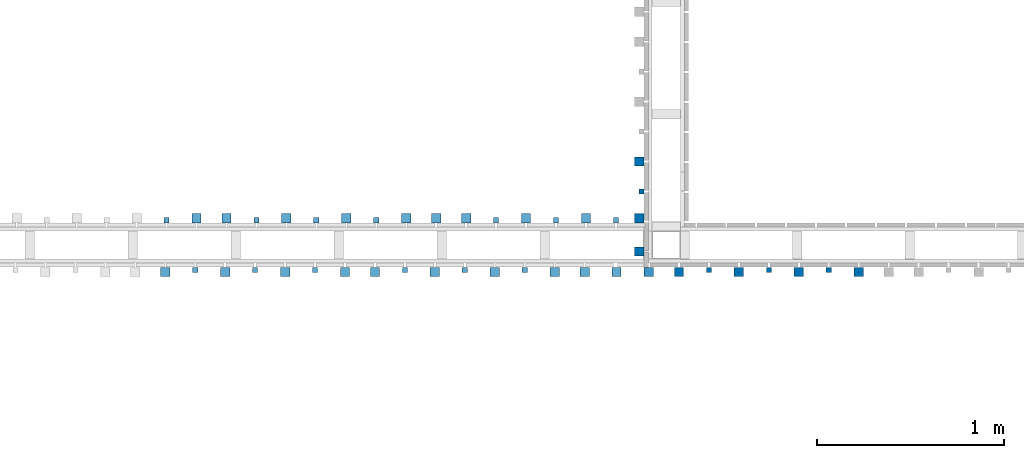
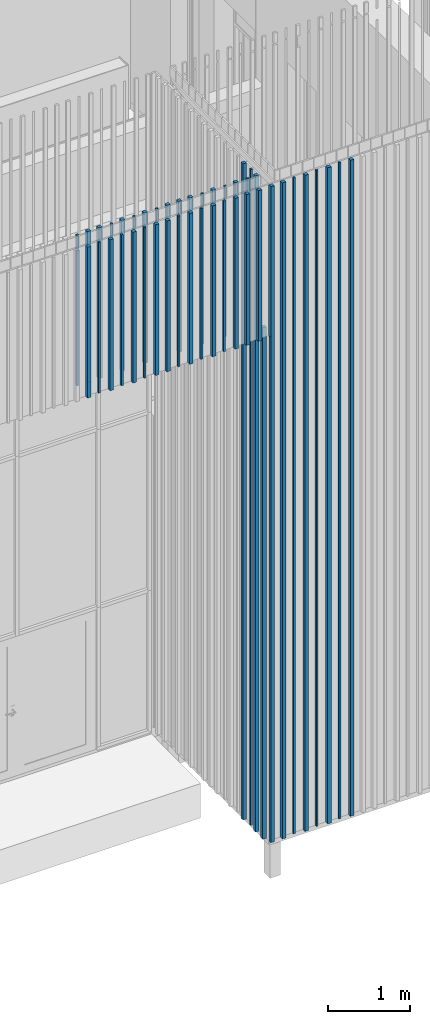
# One storey, part 12 of 390: 47 walls.
"""IFC2X3 building model written with IfcOpenShell, lengths in millimetres."""

from ifc_helpers import new_model, entity, si_unit, converted_unit, derived_unit, money_unit, direction, frame, origin_with_axes, origin_2d_with_axis, place, context, subcontext, project, spatial, rectangle, extrude, material, type_object, element, save


model = new_model("IFC2X3")

# Units and contexts
model_context = context("Model", 3, precision=1e-05, world=origin_with_axes(), true_north=direction((0.0, 1.0)))
body_context = subcontext(model_context, "Body", "Model", "MODEL_VIEW")
ifc_project = project(units=[si_unit("LENGTHUNIT", "METRE", prefix="MILLI"), si_unit("AREAUNIT", "SQUARE_METRE"), si_unit("VOLUMEUNIT", "CUBIC_METRE"), converted_unit("PLANEANGLEUNIT", "DEGREE", entity("IfcPlaneAngleMeasure", 0.0174532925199), si_unit("PLANEANGLEUNIT", "RADIAN"), dimensions=[0, 0, 0, 0, 0, 0, 0]), si_unit("SOLIDANGLEUNIT", "STERADIAN"), money_unit("EUR"), converted_unit("TIMEUNIT", "Year", entity("IfcTimeMeasure", 31556926.0), si_unit("TIMEUNIT", "SECOND"), dimensions=[0, 0, 1, 0, 0, 0, 0]), si_unit("MASSUNIT", "GRAM", prefix="KILO"), si_unit("THERMODYNAMICTEMPERATUREUNIT", "DEGREE_CELSIUS"), si_unit("LUMINOUSINTENSITYUNIT", "LUMEN"), si_unit("ENERGYUNIT", "JOULE", prefix="MEGA"), derived_unit("THERMALCONDUCTANCEUNIT", [(si_unit("POWERUNIT", "WATT"), 1), (si_unit("LENGTHUNIT", "METRE"), -1), (si_unit("THERMODYNAMICTEMPERATUREUNIT", "KELVIN"), -1)]), derived_unit("SPECIFICHEATCAPACITYUNIT", [(si_unit("ENERGYUNIT", "JOULE"), 1), (si_unit("MASSUNIT", "GRAM", prefix="KILO"), -1), (si_unit("THERMODYNAMICTEMPERATUREUNIT", "KELVIN"), -1)]), derived_unit("MASSDENSITYUNIT", [(si_unit("MASSUNIT", "GRAM", prefix="KILO"), 1), (si_unit("VOLUMEUNIT", "CUBIC_METRE"), -1)])], contexts=[model_context])

# Site, building, storey
site_placement = place(None, origin_with_axes())
site = spatial("IfcSite", under=ifc_project, at=site_placement, Name="Site", CompositionType="ELEMENT")
building_placement = place(site_placement, origin_with_axes())
building = spatial("IfcBuilding", under=site, at=building_placement, Name="Building", CompositionType="ELEMENT")
storey_placement = place(building_placement, origin_with_axes())
storey = spatial("IfcBuildingStorey", under=building, at=storey_placement, Name="1 korrus", CompositionType="ELEMENT", Elevation=0.0)

# Walls
ifc_material = material(Name="Site specified")
wall_type = type_object("IfcWallType", Name="Puitfassaadi ribistik", PredefinedType="NOTDEFINED")
wall_1_placement = place(storey_placement, frame((132871.000037, 42565.0000099, 100.000000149), z_axis=(0.0, 0.0, 1.0), x_axis=(-1.0, 0.0, 0.0)))
element("IfcWall", 1, at=wall_1_placement, inside=storey, type_object=wall_type, material=ifc_material, Name="Site specified", context=body_context, shape_type="SweptSolid", body=[
    extrude(rectangle(XDim=50.0, YDim=49.9999999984, at=origin_2d_with_axis()), origin_with_axes(), (0.0, 0.0, 1.0), 7614.99999953),
])
for number, where, z_axis, x_axis, name in (
    (2, (131785.999993, 42743.000053, 7620.00000604), (0.0, 0.0, 1.0), (1.0, 0.0, 0.0), "Site specified"),
    (3, (131945.999993, 42743.000053, 7620.00000604), (0.0, 0.0, 1.0), (1.0, 0.0, 0.0), "Site specified"),
    (4, (132265.999993, 42743.000053, 7620.00000604), (0.0, 0.0, 1.0), (1.0, 0.0, 0.0), "Site specified"),
):
    element("IfcWall", number, at=place(storey_placement, frame(where, z_axis=z_axis, x_axis=x_axis)), inside=storey, type_object=wall_type, material=ifc_material, Name=name, context=body_context, shape_type="SweptSolid", body=[
        extrude(rectangle(XDim=50.0, YDim=50.0, at=origin_2d_with_axis()), origin_with_axes(), (0.0, 0.0, 1.0), 2245.0),
    ])
wall_2_placement = place(storey_placement, frame((132105.999993, 42732.000053, 7620.00000604), z_axis=(0.0, 0.0, 1.0), x_axis=(1.0, 0.0, 0.0)))
element("IfcWall", 5, at=wall_2_placement, inside=storey, type_object=wall_type, material=ifc_material, Name="Site specified", context=body_context, shape_type="SweptSolid", body=[
    extrude(rectangle(XDim=28.0, YDim=28.0, at=origin_2d_with_axis()), origin_with_axes(), (0.0, 0.0, 1.0), 2245.0),
])
wall_3_placement = place(storey_placement, frame((132585.999993, 42743.0001029, 7620.00000604), z_axis=(0.0, 0.0, 1.0), x_axis=(1.0, 0.0, 0.0)))
element("IfcWall", 6, at=wall_3_placement, inside=storey, type_object=wall_type, material=ifc_material, Name="Site specified", context=body_context, shape_type="SweptSolid", body=[
    extrude(rectangle(XDim=50.0, YDim=50.0, at=origin_2d_with_axis()), origin_with_axes(), (0.0, 0.0, 1.0), 2245.0),
])
for number, where, z_axis, x_axis, name in (
    (7, (132745.999993, 42732.0000455, 7620.00000604), (0.0, 0.0, 1.0), (1.0, 0.0, 0.0), "Site specified"),
    (8, (132425.999993, 42732.000053, 7620.00000604), (0.0, 0.0, 1.0), (1.0, 0.0, 0.0), "Site specified"),
):
    element("IfcWall", number, at=place(storey_placement, frame(where, z_axis=z_axis, x_axis=x_axis)), inside=storey, type_object=wall_type, material=ifc_material, Name=name, context=body_context, shape_type="SweptSolid", body=[
        extrude(rectangle(XDim=28.0, YDim=28.0, at=origin_2d_with_axis()), origin_with_axes(), (0.0, 0.0, 1.0), 2245.0),
    ])
wall_4_placement = place(storey_placement, frame((132921.000037, 42454.99993, 7620.0), z_axis=(0.0, 0.0, 1.0), x_axis=(-1.0, 0.0, 0.0)))
element("IfcWall", 9, at=wall_4_placement, inside=storey, type_object=wall_type, material=ifc_material, Name="Site specified", context=body_context, shape_type="SweptSolid", body=[
    extrude(rectangle(XDim=50.0, YDim=50.0, at=origin_2d_with_axis()), origin_with_axes(), (0.0, 0.0, 1.0), 2245.0),
])
wall_5_placement = place(storey_placement, frame((132871.000037, 42743.0000099, 100.000000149), z_axis=(0.0, 0.0, 1.0), x_axis=(-1.0, 0.0, 0.0)))
element("IfcWall", 10, at=wall_5_placement, inside=storey, type_object=wall_type, material=ifc_material, Name="Site specified", context=body_context, shape_type="SweptSolid", body=[
    extrude(rectangle(XDim=50.0, YDim=49.9999999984, at=origin_2d_with_axis()), origin_with_axes(), (0.0, 0.0, 1.0), 9764.99999985),
])
wall_6_placement = place(storey_placement, frame((132882.000037, 42885.0000099, 100.000000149), z_axis=(0.0, 0.0, 1.0), x_axis=(-1.0, 0.0, 0.0)))
element("IfcWall", 11, at=wall_6_placement, inside=storey, type_object=wall_type, material=ifc_material, Name="Site specified", context=body_context, shape_type="SweptSolid", body=[
    extrude(rectangle(XDim=28.0, YDim=28.0, at=origin_2d_with_axis()), origin_with_axes(), (0.0, 0.0, 1.0), 9764.99999985),
])
for number, where, z_axis, x_axis, name in (
    (12, (130825.999993, 42732.0000605, 7620.00000604), (0.0, 0.0, 1.0), (1.0, 0.0, 0.0), "Site specified"),
    (13, (131145.999993, 42732.0000605, 7620.00000604), (0.0, 0.0, 1.0), (1.0, 0.0, 0.0), "Site specified"),
    (14, (131465.999993, 42732.000053, 7620.00000604), (0.0, 0.0, 1.0), (1.0, 0.0, 0.0), "Site specified"),
):
    element("IfcWall", number, at=place(storey_placement, frame(where, z_axis=z_axis, x_axis=x_axis)), inside=storey, type_object=wall_type, material=ifc_material, Name=name, context=body_context, shape_type="SweptSolid", body=[
        extrude(rectangle(XDim=28.0, YDim=28.0, at=origin_2d_with_axis()), origin_with_axes(), (0.0, 0.0, 1.0), 2245.0),
    ])
for number, where, z_axis, x_axis, name in (
    (15, (130665.999993, 42743.0000605, 7620.00000604), (0.0, 0.0, 1.0), (1.0, 0.0, 0.0), "Site specified"),
    (16, (130985.999993, 42743.0000605, 7620.00000604), (0.0, 0.0, 1.0), (1.0, 0.0, 0.0), "Site specified"),
    (17, (130505.999993, 42743.0000605, 7620.00000604), (0.0, 0.0, 1.0), (1.0, 0.0, 0.0), "Site specified"),
    (18, (131305.999993, 42743.0001104, 7620.00000604), (0.0, 0.0, 1.0), (1.0, 0.0, 0.0), "Site specified"),
    (19, (131625.999993, 42743.0001029, 7620.00000604), (0.0, 0.0, 1.0), (1.0, 0.0, 0.0), "Site specified"),
):
    element("IfcWall", number, at=place(storey_placement, frame(where, z_axis=z_axis, x_axis=x_axis)), inside=storey, type_object=wall_type, material=ifc_material, Name=name, context=body_context, shape_type="SweptSolid", body=[
        extrude(rectangle(XDim=50.0, YDim=50.0, at=origin_2d_with_axis()), origin_with_axes(), (0.0, 0.0, 1.0), 2245.0),
    ])
for number, where, z_axis, x_axis, name in (
    (20, (131938.999993, 42466.0000311, 7620.0), (0.0, 0.0, 1.0), (-1.0, 0.0, 0.0), "Site specified"),
    (21, (131618.999993, 42466.0000386, 7620.0), (0.0, 0.0, 1.0), (-1.0, 0.0, 0.0), "Site specified"),
):
    element("IfcWall", number, at=place(storey_placement, frame(where, z_axis=z_axis, x_axis=x_axis)), inside=storey, type_object=wall_type, material=ifc_material, Name=name, context=body_context, shape_type="SweptSolid", body=[
        extrude(rectangle(XDim=28.0, YDim=28.0, at=origin_2d_with_axis()), origin_with_axes(), (0.0, 0.0, 1.0), 2245.0),
    ])
for number, where, z_axis, x_axis, name in (
    (22, (131778.999994, 42454.9999812, 7620.0), (0.0, 0.0, 1.0), (-1.0, 0.0, 0.0), "Site specified"),
    (23, (130338.999994, 42454.9999463, 7620.0), (0.0, 0.0, 1.0), (-1.0, 0.0, 0.0), "Site specified"),
    (24, (130658.999994, 42454.9999388, 7620.0), (0.0, 0.0, 1.0), (-1.0, 0.0, 0.0), "Site specified"),
    (25, (130978.999994, 42454.9999887, 7620.0), (0.0, 0.0, 1.0), (-1.0, 0.0, 0.0), "Site specified"),
    (26, (131458.999994, 42454.9999887, 7620.0), (0.0, 0.0, 1.0), (-1.0, 0.0, 0.0), "Site specified"),
    (27, (131298.999994, 42454.9999887, 7620.0), (0.0, 0.0, 1.0), (-1.0, 0.0, 0.0), "Site specified"),
):
    element("IfcWall", number, at=place(storey_placement, frame(where, z_axis=z_axis, x_axis=x_axis)), inside=storey, type_object=wall_type, material=ifc_material, Name=name, context=body_context, shape_type="SweptSolid", body=[
        extrude(rectangle(XDim=50.0, YDim=50.0, at=origin_2d_with_axis()), origin_with_axes(), (0.0, 0.0, 1.0), 2245.0),
    ])
for number, where, z_axis, x_axis, name in (
    (28, (130498.999994, 42465.9999962, 7620.0), (0.0, 0.0, 1.0), (-1.0, 0.0, 0.0), "Site specified"),
    (29, (130818.999994, 42465.9999887, 7620.0), (0.0, 0.0, 1.0), (-1.0, 0.0, 0.0), "Site specified"),
    (30, (131138.999994, 42465.9999887, 7620.0), (0.0, 0.0, 1.0), (-1.0, 0.0, 0.0), "Site specified"),
    (31, (132258.999993, 42466.0000311, 7620.0), (0.0, 0.0, 1.0), (-1.0, 0.0, 0.0), "Site specified"),
):
    element("IfcWall", number, at=place(storey_placement, frame(where, z_axis=z_axis, x_axis=x_axis)), inside=storey, type_object=wall_type, material=ifc_material, Name=name, context=body_context, shape_type="SweptSolid", body=[
        extrude(rectangle(XDim=28.0, YDim=28.0, at=origin_2d_with_axis()), origin_with_axes(), (0.0, 0.0, 1.0), 2245.0),
    ])
for number, where, z_axis, x_axis, name in (
    (32, (131458.999994, 42454.9999887, 7620.0), (0.0, 0.0, 1.0), (-1.0, 0.0, 0.0), "Site specified"),
    (33, (132098.999993, 42455.0000311, 7620.0), (0.0, 0.0, 1.0), (-1.0, 0.0, 0.0), "Site specified"),
    (34, (132418.999993, 42455.0000311, 7620.0), (0.0, 0.0, 1.0), (-1.0, 0.0, 0.0), "Site specified"),
    (35, (132578.999993, 42455.0000311, 7620.0), (0.0, 0.0, 1.0), (-1.0, 0.0, 0.0), "Site specified"),
    (36, (132748.999993, 42454.9999812, 7620.0), (0.0, 0.0, 1.0), (-1.0, 0.0, 0.0), "Site specified"),
):
    element("IfcWall", number, at=place(storey_placement, frame(where, z_axis=z_axis, x_axis=x_axis)), inside=storey, type_object=wall_type, material=ifc_material, Name=name, context=body_context, shape_type="SweptSolid", body=[
        extrude(rectangle(XDim=50.0, YDim=50.0, at=origin_2d_with_axis()), origin_with_axes(), (0.0, 0.0, 1.0), 2245.0),
    ])
for number, where, z_axis, x_axis, name in (
    (37, (133403.000037, 42454.9999225, 100.000000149), (0.0, 0.0, 1.0), (-1.0, 0.0, 0.0), "Site specified"),
    (38, (133723.000037, 42454.9999724, 100.000000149), (0.0, 0.0, 1.0), (-1.0, 0.0, 0.0), "Site specified"),
):
    element("IfcWall", number, at=place(storey_placement, frame(where, z_axis=z_axis, x_axis=x_axis)), inside=storey, type_object=wall_type, material=ifc_material, Name=name, context=body_context, shape_type="SweptSolid", body=[
        extrude(rectangle(XDim=50.0, YDim=50.0, at=origin_2d_with_axis()), origin_with_axes(), (0.0, 0.0, 1.0), 9764.99999985),
    ])
wall_7_placement = place(storey_placement, frame((133883.000037, 42465.9999724, 100.000000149), z_axis=(0.0, 0.0, 1.0), x_axis=(-1.0, 0.0, 0.0)))
element("IfcWall", 39, at=wall_7_placement, inside=storey, type_object=wall_type, material=ifc_material, Name="Site specified", context=body_context, shape_type="SweptSolid", body=[
    extrude(rectangle(XDim=28.0, YDim=28.0, at=origin_2d_with_axis()), origin_with_axes(), (0.0, 0.0, 1.0), 9764.99999985),
])
for number, where, z_axis, x_axis, name in (
    (40, (134043.000037, 42454.9999724, 100.000000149), (0.0, 0.0, 1.0), (-1.0, 0.0, 0.0), "Site specified"),
    (41, (133083.000037, 42454.99993, 100.000000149), (0.0, 0.0, 1.0), (-1.0, 0.0, 0.0), "Site specified"),
):
    element("IfcWall", number, at=place(storey_placement, frame(where, z_axis=z_axis, x_axis=x_axis)), inside=storey, type_object=wall_type, material=ifc_material, Name=name, context=body_context, shape_type="SweptSolid", body=[
        extrude(rectangle(XDim=50.0, YDim=50.0, at=origin_2d_with_axis()), origin_with_axes(), (0.0, 0.0, 1.0), 9764.99999985),
    ])
wall_8_placement = place(storey_placement, frame((132922.000037, 42454.99993, 100.000000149), z_axis=(0.0, 0.0, 1.0), x_axis=(-1.0, 0.0, 0.0)))
element("IfcWall", 42, at=wall_8_placement, inside=storey, type_object=wall_type, material=ifc_material, Name="Site specified", context=body_context, shape_type="SweptSolid", body=[
    extrude(rectangle(XDim=50.0, YDim=49.9999999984, at=origin_2d_with_axis()), origin_with_axes(), (0.0, 0.0, 1.0), 9764.99999985),
])
for number, where, z_axis, x_axis, name in (
    (43, (133563.000037, 42465.9999724, 100.000000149), (0.0, 0.0, 1.0), (-1.0, 0.0, 0.0), "Site specified"),
    (44, (133243.000037, 42465.9999799, 100.000000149), (0.0, 0.0, 1.0), (-1.0, 0.0, 0.0), "Site specified"),
):
    element("IfcWall", number, at=place(storey_placement, frame(where, z_axis=z_axis, x_axis=x_axis)), inside=storey, type_object=wall_type, material=ifc_material, Name=name, context=body_context, shape_type="SweptSolid", body=[
        extrude(rectangle(XDim=28.0, YDim=28.0, at=origin_2d_with_axis()), origin_with_axes(), (0.0, 0.0, 1.0), 9764.99999985),
    ])
wall_9_placement = place(storey_placement, frame((132871.000037, 43045.0000099, 100.000000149), z_axis=(0.0, 0.0, 1.0), x_axis=(-1.0, 0.0, 0.0)))
element("IfcWall", 45, at=wall_9_placement, inside=storey, type_object=wall_type, material=ifc_material, Name="Site specified", context=body_context, shape_type="SweptSolid", body=[
    extrude(rectangle(XDim=50.0, YDim=49.9999999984, at=origin_2d_with_axis()), origin_with_axes(), (0.0, 0.0, 1.0), 9764.99999985),
])
wall_10_placement = place(storey_placement, frame((130505.999993, 42743.0000605, 7620.00000604), z_axis=(0.0, 0.0, 1.0), x_axis=(1.0, 0.0, 0.0)))
element("IfcWall", 46, at=wall_10_placement, inside=storey, type_object=wall_type, material=ifc_material, Name="Site specified", context=body_context, shape_type="SweptSolid", body=[
    extrude(rectangle(XDim=50.0, YDim=50.0, at=origin_2d_with_axis()), origin_with_axes(), (0.0, 0.0, 1.0), 2245.0),
])
wall_11_placement = place(storey_placement, frame((130345.999994, 42732.0000106, 7620.00000604), z_axis=(0.0, 0.0, 1.0), x_axis=(1.0, 0.0, 0.0)))
element("IfcWall", 47, at=wall_11_placement, inside=storey, type_object=wall_type, material=ifc_material, Name="Site specified", context=body_context, shape_type="SweptSolid", body=[
    extrude(rectangle(XDim=28.0, YDim=28.0, at=origin_2d_with_axis()), origin_with_axes(), (0.0, 0.0, 1.0), 2245.0),
])

save(model, "model.ifc")
